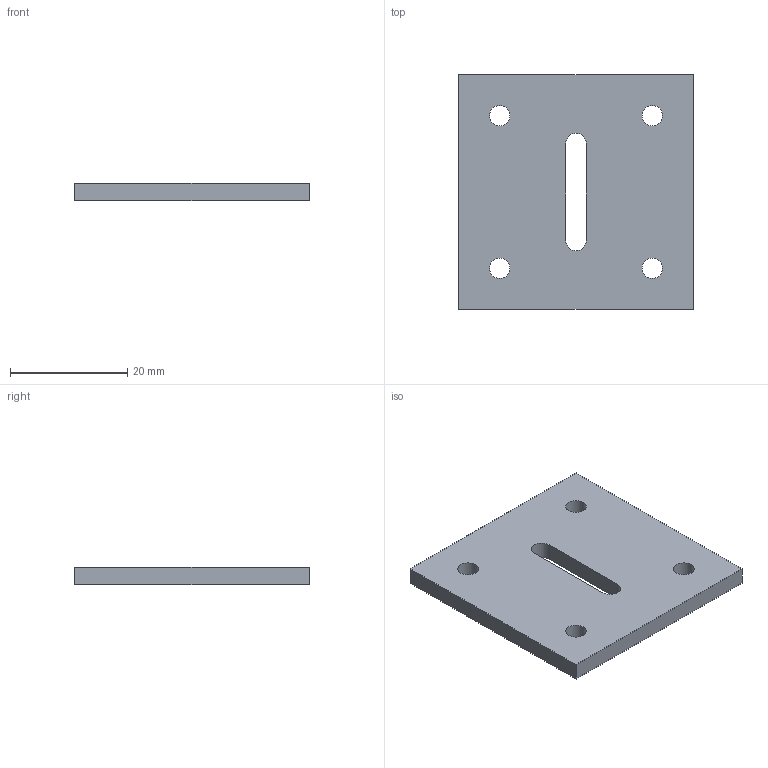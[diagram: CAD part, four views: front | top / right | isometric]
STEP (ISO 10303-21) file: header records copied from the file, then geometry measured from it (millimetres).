
FILE_DESCRIPTION(('Open CASCADE Model'),'2;1');
FILE_NAME('Open CASCADE Shape Model','2026-10-15T18:22:08',('Author'),( 'Open CASCADE'),'Open CASCADE STEP processor 7.9','Open CASCADE 7.9' ,'Unknown');
FILE_SCHEMA(('AUTOMOTIVE_DESIGN { 1 0 10303 214 1 1 1 1 }'));
Length unit declared in the file: millimetre
Products named in the file (1): Open CASCADE STEP translator 7.9 9
Bounding box: 40 x 40 x 3 mm (x, y, z)
Volume: 4482.4 mm3; surface area: 3732.2 mm2
Topology: 1 solids, 1 shells, 14 faces, 36 edges, 24 vertices
Faces by surface type: plane 8, cylinder 6
Full cylindrical faces by diameter (mm): 3.5 x4
Entity records: 934 total; most frequent: CARTESIAN_POINT 179, DIRECTION 138, LINE 76, VECTOR 76, ORIENTED_EDGE 72, PCURVE 72, DEFINITIONAL_REPRESENTATION 72, EDGE_CURVE 36
